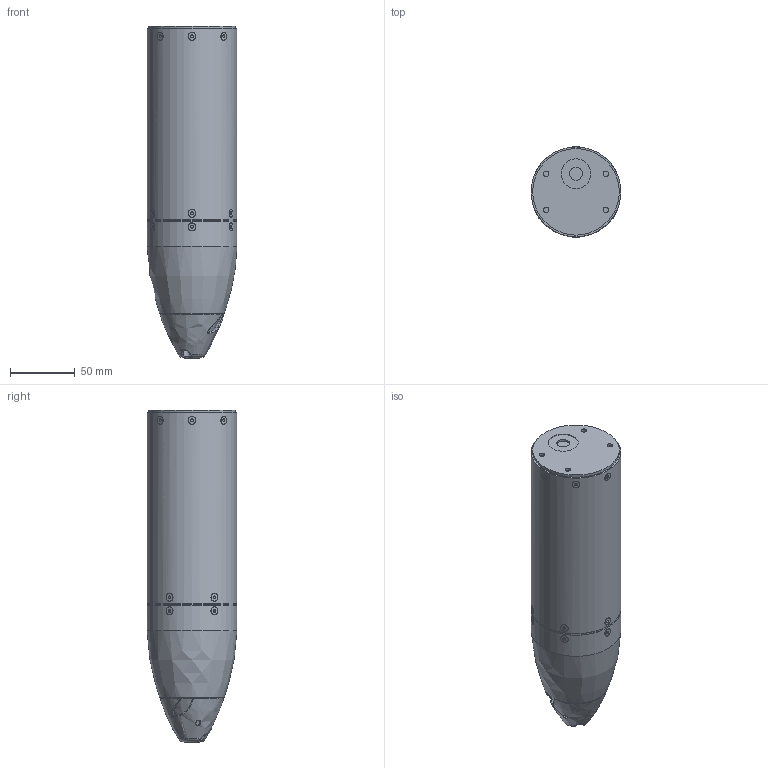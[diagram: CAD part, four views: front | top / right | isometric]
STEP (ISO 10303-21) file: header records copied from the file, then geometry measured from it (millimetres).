
FILE_DESCRIPTION (( 'STEP AP203' ), '1' );
FILE_NAME ('THR-100X.STEP', '2019-10-14T18:23:02', ( '' ), ( '' ), 'SwSTEP 2.0', 'SolidWorks 2019', '' );
FILE_SCHEMA (( 'CONFIG_CONTROL_DESIGN' ));
Length unit declared in the file: inch
Products named in the file (1): THR-100X
Bounding box: 69.6 x 69.6 x 256.95 mm (x, y, z)
Volume: 842450.2 mm3; surface area: 59159.4 mm2
Topology: 1 solids, 16 shells, 494 faces, 1017 edges, 592 vertices
Faces by surface type: plane 185, cone 182, cylinder 72, bspline 49, torus 6
Full cylindrical faces by diameter (mm): 2 x1, 3.1 x6, 3.4 x8, 4 x1, 4.2 x4, 6 x20, 8.25 x1, 9.921 x1, 23 x1, 46.162 x1, 66.356 x2, 67 x1, 69.5 x3
Entity records: 22437 total; most frequent: CARTESIAN_POINT 13668, DIRECTION 1672, ORIENTED_EDGE 1660, EDGE_CURVE 830, AXIS2_PLACEMENT_3D 710, EDGE_LOOP 644, FACE_OUTER_BOUND 539, VERTEX_POINT 504
